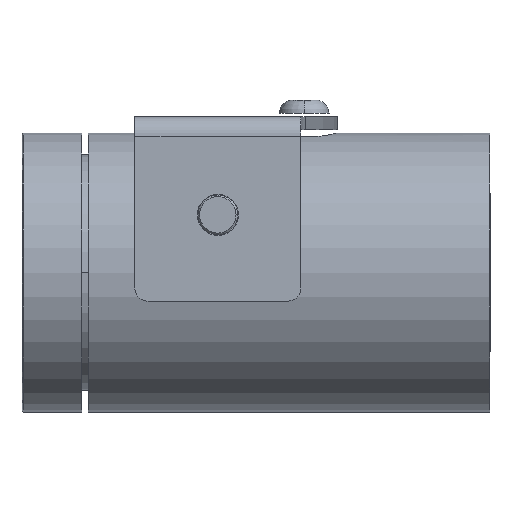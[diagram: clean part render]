
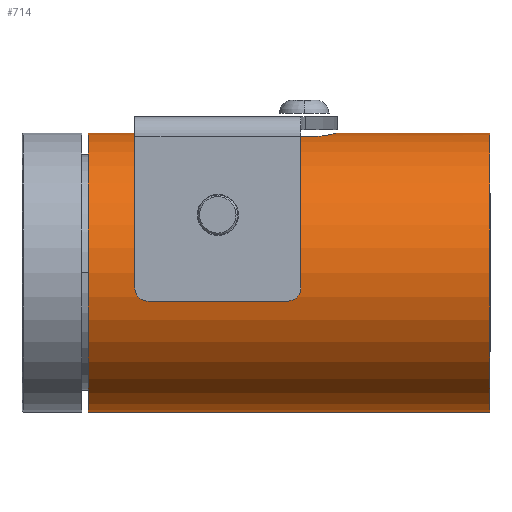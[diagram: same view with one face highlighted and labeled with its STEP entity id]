
A CAD part, left-side view. The second image highlights one B-rep face of the part: STEP entity #714.
In plain terms, the highlighted cylindrical face has radius 21 mm (diameter 42 mm), a partial arc.
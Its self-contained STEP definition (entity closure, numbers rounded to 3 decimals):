
#195=CARTESIAN_POINT('',(0.,-20.,0.));
#196=DIRECTION('',(0.,-1.,0.));
#197=DIRECTION('',(0.,0.,1.));
#198=AXIS2_PLACEMENT_3D('',#195,#196,#197);
#261=CARTESIAN_POINT('',(-4.555,5.938,20.5));
#262=CARTESIAN_POINT('',(-4.509,5.836,20.51));
#263=CARTESIAN_POINT('',(-4.409,5.635,20.532));
#264=CARTESIAN_POINT('',(-4.239,5.341,20.568));
#265=CARTESIAN_POINT('',(-4.049,5.06,20.606));
#266=CARTESIAN_POINT('',(-3.84,4.792,20.646));
#267=CARTESIAN_POINT('',(-3.613,4.538,20.687));
#268=CARTESIAN_POINT('',(-3.37,4.301,20.728));
#269=CARTESIAN_POINT('',(-3.111,4.08,20.769));
#270=CARTESIAN_POINT('',(-2.838,3.879,20.808));
#271=CARTESIAN_POINT('',(-2.552,3.696,20.845));
#272=CARTESIAN_POINT('',(-2.256,3.534,20.879));
#273=CARTESIAN_POINT('',(-1.95,3.392,20.91));
#274=CARTESIAN_POINT('',(-1.637,3.271,20.937));
#275=CARTESIAN_POINT('',(-1.317,3.173,20.959));
#276=CARTESIAN_POINT('',(-0.992,3.096,20.977));
#277=CARTESIAN_POINT('',(-0.664,3.04,20.99));
#278=CARTESIAN_POINT('',(-0.332,3.007,20.998));
#279=CARTESIAN_POINT('',(-0.111,3.,21.));
#280=CARTESIAN_POINT('',(0.,3.,21.));
#282=DIRECTION('',(0.,-1.,0.));
#283=VECTOR('',#282,23.);
#284=CARTESIAN_POINT('',(0.,3.,21.));
#285=LINE('',#284,#283);
#286=DIRECTION('',(0.,1.,0.));
#287=VECTOR('',#286,60.5);
#288=CARTESIAN_POINT('',(0.,-20.,-21.));
#289=LINE('',#288,#287);
#290=CARTESIAN_POINT('',(0.,40.5,0.));
#291=DIRECTION('',(0.,1.,0.));
#292=DIRECTION('',(0.,0.,-1.));
#293=AXIS2_PLACEMENT_3D('',#290,#291,#292);
#295=DIRECTION('',(0.,-1.,0.));
#296=VECTOR('',#295,27.5);
#297=CARTESIAN_POINT('',(0.,40.5,21.));
#298=LINE('',#297,#296);
#299=CARTESIAN_POINT('',(0.,13.,21.));
#300=CARTESIAN_POINT('',(-0.111,13.,21.));
#301=CARTESIAN_POINT('',(-0.332,12.993,20.998));
#302=CARTESIAN_POINT('',(-0.664,12.96,20.99));
#303=CARTESIAN_POINT('',(-0.992,12.904,20.977));
#304=CARTESIAN_POINT('',(-1.317,12.827,20.959));
#305=CARTESIAN_POINT('',(-1.637,12.729,20.937));
#306=CARTESIAN_POINT('',(-1.95,12.608,20.91));
#307=CARTESIAN_POINT('',(-2.256,12.466,20.879));
#308=CARTESIAN_POINT('',(-2.552,12.304,20.845));
#309=CARTESIAN_POINT('',(-2.838,12.121,20.808));
#310=CARTESIAN_POINT('',(-3.111,11.92,20.769));
#311=CARTESIAN_POINT('',(-3.37,11.699,20.728));
#312=CARTESIAN_POINT('',(-3.613,11.462,20.687));
#313=CARTESIAN_POINT('',(-3.84,11.208,20.646));
#314=CARTESIAN_POINT('',(-4.049,10.94,20.606));
#315=CARTESIAN_POINT('',(-4.239,10.659,20.568));
#316=CARTESIAN_POINT('',(-4.409,10.365,20.532));
#317=CARTESIAN_POINT('',(-4.509,10.164,20.51));
#318=CARTESIAN_POINT('',(-4.555,10.062,20.5));
#320=DIRECTION('',(0.,-1.,0.));
#321=VECTOR('',#320,4.123);
#322=CARTESIAN_POINT('',(-4.555,10.062,20.5));
#323=LINE('',#322,#321);
#332=CARTESIAN_POINT('',(0.,40.5,-21.));
#333=CARTESIAN_POINT('',(0.,40.5,21.));
#334=VERTEX_POINT('',#332);
#335=VERTEX_POINT('',#333);
#352=CARTESIAN_POINT('',(0.,-20.,-21.));
#353=CARTESIAN_POINT('',(0.,-20.,21.));
#354=VERTEX_POINT('',#352);
#355=VERTEX_POINT('',#353);
#364=VERTEX_POINT('',#280);
#365=VERTEX_POINT('',#261);
#366=VERTEX_POINT('',#318);
#367=VERTEX_POINT('',#299);
#695=CARTESIAN_POINT('',(0.,0.,0.));
#696=DIRECTION('',(0.,1.,0.));
#697=DIRECTION('',(0.,0.,-1.));
#698=AXIS2_PLACEMENT_3D('',#695,#696,#697);
#699=CYLINDRICAL_SURFACE('',#698,21.);
#701=ORIENTED_EDGE('',*,*,#700,.T.);
#702=ORIENTED_EDGE('',*,*,#690,.T.);
#703=ORIENTED_EDGE('',*,*,#663,.T.);
#704=ORIENTED_EDGE('',*,*,#687,.T.);
#706=ORIENTED_EDGE('',*,*,#705,.T.);
#707=ORIENTED_EDGE('',*,*,#683,.T.);
#709=ORIENTED_EDGE('',*,*,#708,.T.);
#711=ORIENTED_EDGE('',*,*,#710,.T.);
#712=EDGE_LOOP('',(#701,#702,#703,#704,#706,#707,#709,#711));
#713=FACE_OUTER_BOUND('',#712,.F.);
#714=ADVANCED_FACE('',(#713),#699,.T.);
#199=CIRCLE('',#198,21.);
#281=B_SPLINE_CURVE_WITH_KNOTS('',3,(#261,#262,#263,#264,#265,#266,#267,#268,
#269,#270,#271,#272,#273,#274,#275,#276,#277,#278,#279,#280),.UNSPECIFIED.,.F.,
.F.,(4,1,1,1,1,1,1,1,1,1,1,1,1,1,1,1,1,4),(0.,0.059,
0.118,0.176,0.235,0.294,
0.353,0.412,0.471,0.529,
0.588,0.647,0.706,0.765,
0.824,0.882,0.941,1.),.UNSPECIFIED.);
#294=CIRCLE('',#293,21.);
#319=B_SPLINE_CURVE_WITH_KNOTS('',3,(#299,#300,#301,#302,#303,#304,#305,#306,
#307,#308,#309,#310,#311,#312,#313,#314,#315,#316,#317,#318),.UNSPECIFIED.,.F.,
.F.,(4,1,1,1,1,1,1,1,1,1,1,1,1,1,1,1,1,4),(0.,0.059,
0.118,0.176,0.235,0.294,
0.353,0.412,0.471,0.529,
0.588,0.647,0.706,0.765,
0.824,0.882,0.941,1.),.UNSPECIFIED.);
#663=EDGE_CURVE('',#355,#354,#199,.T.);
#683=EDGE_CURVE('',#335,#367,#298,.T.);
#687=EDGE_CURVE('',#354,#334,#289,.T.);
#690=EDGE_CURVE('',#364,#355,#285,.T.);
#700=EDGE_CURVE('',#365,#364,#281,.T.);
#705=EDGE_CURVE('',#334,#335,#294,.T.);
#708=EDGE_CURVE('',#367,#366,#319,.T.);
#710=EDGE_CURVE('',#366,#365,#323,.T.);
